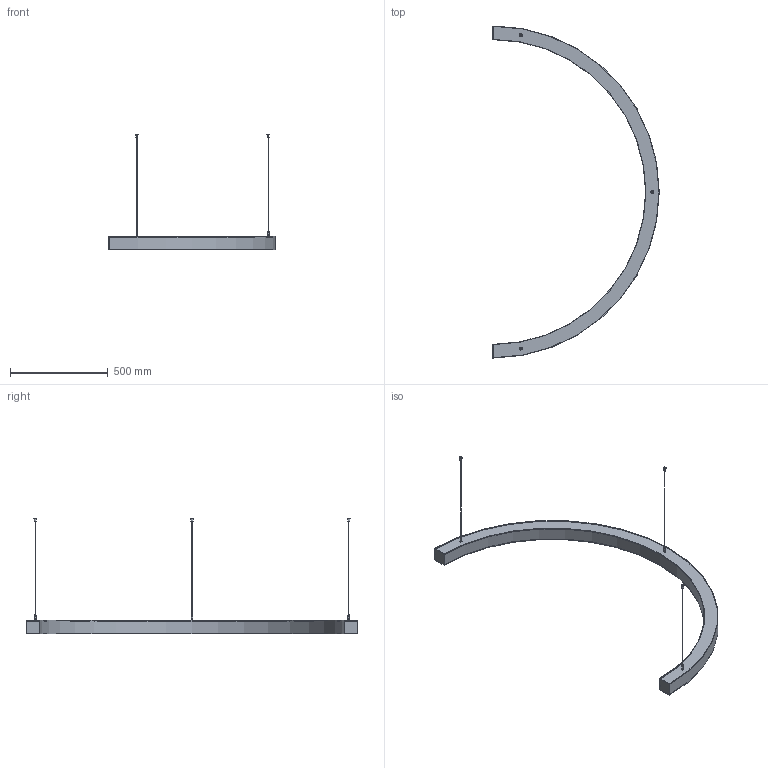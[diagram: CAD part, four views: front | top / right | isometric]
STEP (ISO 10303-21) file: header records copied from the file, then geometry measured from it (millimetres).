
FILE_DESCRIPTION(('STEP AP203'), '1');
FILE_NAME('Half RIN 70 1700mm', '', ('UNSPECIFIED'), ('UNSPECIFIED'), 'C3D Converter', 'C3D Toolkit', '');
FILE_SCHEMA(('CONFIG_CONTROL_DESIGN'));
Length unit declared in the file: millimetre
Assembly tree (13 placements, depth 4):
  (unnamed)
    (unnamed)
    (unnamed)
    (unnamed)
    (unnamed)  x2
    (unnamed)  x3
      (unnamed)
        (unnamed)
        (unnamed)
      (unnamed)
      (unnamed)
Bounding box: 852.5 x 1700 x 593 mm (x, y, z)
Volume: 1151622.7 mm3; surface area: 1560405.9 mm2
Topology: 18 solids, 18 shells, 163 faces, 315 edges, 209 vertices
Faces by surface type: plane 111, cylinder 49, cone 3
Full cylindrical faces by diameter (mm): 2 x3, 2.5 x3, 4 x3, 4.5 x3, 4.7 x3, 5 x6, 6 x3, 8.8 x3, 9 x6, 11 x3, 15 x3
Entity records: 2699 total; most frequent: DIRECTION 380, CARTESIAN_POINT 333, ORIENTED_EDGE 278, AXIS2_PLACEMENT_3D 150, EDGE_CURVE 139, EDGE_LOOP 108, VERTEX_POINT 103, LINE 80
